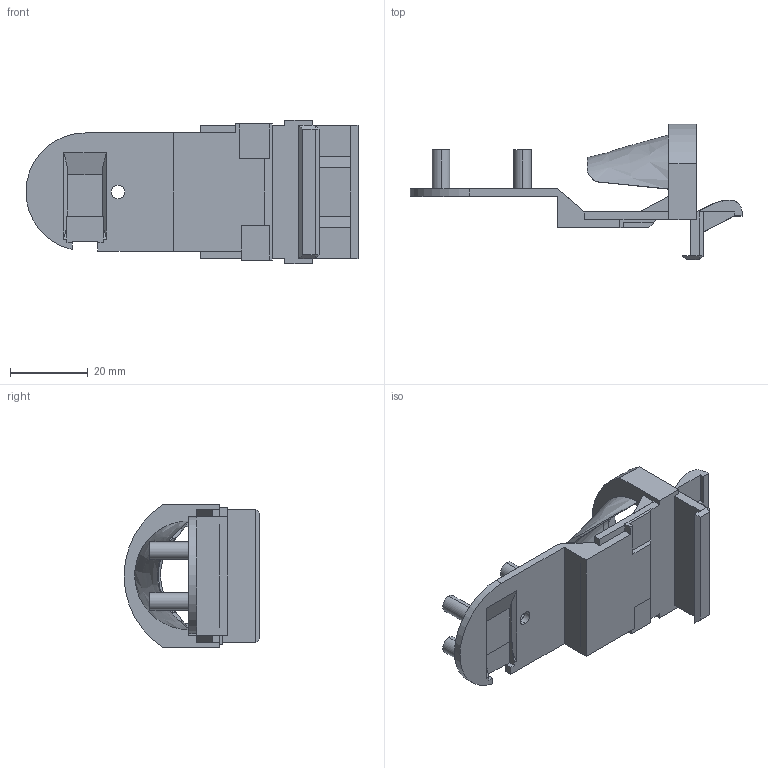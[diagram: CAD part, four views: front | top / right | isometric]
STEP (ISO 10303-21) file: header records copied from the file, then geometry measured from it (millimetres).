
FILE_DESCRIPTION(('Open CASCADE Model'),'2;1');
FILE_NAME('umi-fingertip-back-cover.step','2026-11-14T14:31:50',( 'Author'),('Open CASCADE'),'Open CASCADE STEP processor 8.0', 'Open CASCADE 8.0','Unknown');
FILE_SCHEMA(('AP242_MANAGED_MODEL_BASED_3D_ENGINEERING_MIM_LF {1 0 10303 442 1 1 4 }' ));
Length unit declared in the file: millimetre
Products named in the file (1): UMI Fingertip Back Cover
Bounding box: 85.41 x 34.92 x 37 mm (x, y, z)
Volume: 9690.4 mm3; surface area: 11667.5 mm2
Topology: 2 solids, 2 shells, 150 faces, 390 edges, 251 vertices
Faces by surface type: plane 119, cylinder 21, bspline 6, cone 4
Entity records: 11716 total; most frequent: CARTESIAN_POINT 3985, DIRECTION 1388, LINE 989, VECTOR 989, ORIENTED_EDGE 780, PCURVE 780, DEFINITIONAL_REPRESENTATION 780, EDGE_CURVE 390
